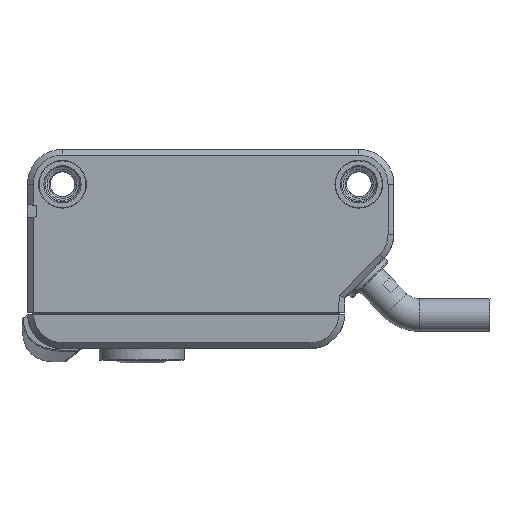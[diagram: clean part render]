
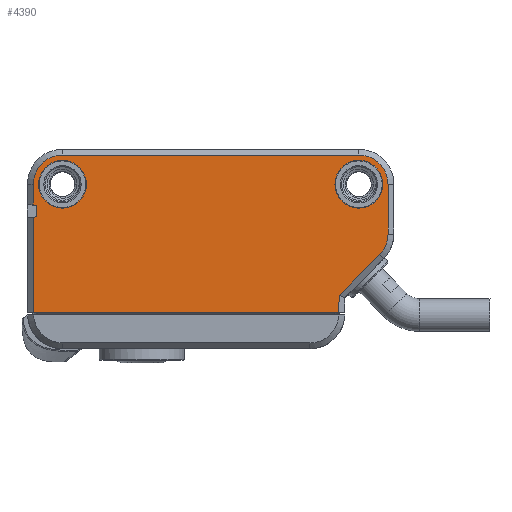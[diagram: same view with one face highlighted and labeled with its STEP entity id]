
A CAD part, left-side view. The second image highlights one B-rep face of the part: STEP entity #4390.
In plain terms, the highlighted planar face has unit normal (-1, 0, 0) as drawn and (0, 0, -1) by its records, which use the part's own axes.
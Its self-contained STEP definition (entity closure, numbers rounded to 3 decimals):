
#564=CARTESIAN_POINT('',(-12.7,-4.2,-6.));
#565=DIRECTION('',(0.,0.,1.));
#566=DIRECTION('',(0.,1.,0.));
#567=AXIS2_PLACEMENT_3D('',#564,#565,#566);
#572=DIRECTION('',(0.,-1.,0.));
#573=VECTOR('',#572,4.272);
#574=CARTESIAN_POINT('',(-15.2,-4.2,
-6.));
#575=LINE('',#574,#573);
#579=CARTESIAN_POINT('',(-12.7,-8.472,-6.));
#580=DIRECTION('',(0.,0.,1.));
#581=DIRECTION('',(-1.,0.,0.));
#582=AXIS2_PLACEMENT_3D('',#579,#580,#581);
#587=DIRECTION('',(0.707,-0.707,0.));
#588=VECTOR('',#587,4.897);
#589=CARTESIAN_POINT('',(-14.467,-10.24,
-6.));
#590=LINE('',#589,#588);
#594=DIRECTION('',(0.014,-1.,0.));
#595=VECTOR('',#594,1.497);
#596=CARTESIAN_POINT('',(-11.004,-13.703,
-6.));
#597=LINE('',#596,#595);
#601=DIRECTION('',(1.,0.,0.));
#602=VECTOR('',#601,26.166);
#603=CARTESIAN_POINT('',(-10.984,-15.2,-6.));
#604=LINE('',#603,#602);
#608=DIRECTION('',(-0.999,0.052,0.));
#609=VECTOR('',#608,0.283);
#610=CARTESIAN_POINT('',(15.183,-7.015,-6.));
#611=LINE('',#610,#609);
#615=DIRECTION('',(0.,1.,0.));
#616=VECTOR('',#615,1.);
#617=CARTESIAN_POINT('',(14.9,-7.,-6.));
#618=LINE('',#617,#616);
#622=DIRECTION('',(0.999,0.052,0.));
#623=VECTOR('',#622,0.3);
#624=CARTESIAN_POINT('',(14.9,-6.,-6.));
#625=LINE('',#624,#623);
#629=DIRECTION('',(0.,1.,0.));
#630=VECTOR('',#629,1.784);
#631=CARTESIAN_POINT('',(15.2,-5.984,-6.));
#632=LINE('',#631,#630);
#636=CARTESIAN_POINT('',(12.7,-4.2,-6.));
#637=DIRECTION('',(0.,0.,1.));
#638=DIRECTION('',(1.,0.,0.));
#639=AXIS2_PLACEMENT_3D('',#636,#637,#638);
#644=DIRECTION('',(-1.,0.,0.));
#645=VECTOR('',#644,25.4);
#646=CARTESIAN_POINT('',(12.7,-1.7,-6.));
#647=LINE('',#646,#645);
#651=CARTESIAN_POINT('',(12.7,-4.2,-6.));
#652=DIRECTION('',(0.,0.,-1.));
#653=DIRECTION('',(0.,1.,0.));
#654=AXIS2_PLACEMENT_3D('',#651,#652,#653);
#659=CARTESIAN_POINT('',(12.7,-4.2,-6.));
#660=DIRECTION('',(0.,0.,-1.));
#661=DIRECTION('',(1.,0.,0.));
#662=AXIS2_PLACEMENT_3D('',#659,#660,#661);
#667=CARTESIAN_POINT('',(12.7,-4.2,-6.));
#668=DIRECTION('',(0.,0.,-1.));
#669=DIRECTION('',(0.,-1.,0.));
#670=AXIS2_PLACEMENT_3D('',#667,#668,#669);
#675=CARTESIAN_POINT('',(-12.7,-4.2,-6.));
#676=DIRECTION('',(0.,0.,-1.));
#677=DIRECTION('',(0.,-1.,0.));
#678=AXIS2_PLACEMENT_3D('',#675,#676,#677);
#683=CARTESIAN_POINT('',(-12.7,-4.2,-6.));
#684=DIRECTION('',(0.,0.,-1.));
#685=DIRECTION('',(0.,1.,0.));
#686=AXIS2_PLACEMENT_3D('',#683,#684,#685);
#691=CARTESIAN_POINT('',(-12.7,-4.2,-6.));
#692=DIRECTION('',(0.,0.,-1.));
#693=DIRECTION('',(1.,0.,0.));
#694=AXIS2_PLACEMENT_3D('',#691,#692,#693);
#806=DIRECTION('',(0.,-1.,0.));
#807=VECTOR('',#806,8.185);
#808=CARTESIAN_POINT('',(15.183,-7.015,-6.));
#809=LINE('',#808,#807);
#3558=CARTESIAN_POINT('',(-10.7,-4.2,-6.));
#3559=CARTESIAN_POINT('',(-12.7,-6.2,-6.));
#3560=VERTEX_POINT('',#3558);
#3561=VERTEX_POINT('',#3559);
#3562=CARTESIAN_POINT('',(-12.7,-2.2,-6.));
#3563=VERTEX_POINT('',#3562);
#3564=CARTESIAN_POINT('',(-12.7,-1.7,-6.));
#3565=CARTESIAN_POINT('',(-15.2,-4.2,-6.));
#3566=VERTEX_POINT('',#3564);
#3567=VERTEX_POINT('',#3565);
#3568=CARTESIAN_POINT('',(-15.2,-8.472,
-6.));
#3569=VERTEX_POINT('',#3568);
#3570=CARTESIAN_POINT('',(-14.467,-10.241,-6.));
#3571=VERTEX_POINT('',#3570);
#3572=CARTESIAN_POINT('',(-11.004,-13.703,
-6.));
#3573=VERTEX_POINT('',#3572);
#3574=CARTESIAN_POINT('',(-10.984,-15.2,-6.));
#3575=VERTEX_POINT('',#3574);
#3576=CARTESIAN_POINT('',(15.183,-15.2,-6.));
#3577=VERTEX_POINT('',#3576);
#3578=CARTESIAN_POINT('',(15.183,-7.015,
-6.));
#3579=VERTEX_POINT('',#3578);
#3580=CARTESIAN_POINT('',(14.9,-7.,-6.));
#3581=VERTEX_POINT('',#3580);
#3582=CARTESIAN_POINT('',(14.9,-6.,-6.));
#3583=VERTEX_POINT('',#3582);
#3584=CARTESIAN_POINT('',(15.2,-5.984,-6.));
#3585=VERTEX_POINT('',#3584);
#3586=CARTESIAN_POINT('',(15.2,-4.2,
-6.));
#3587=VERTEX_POINT('',#3586);
#3588=CARTESIAN_POINT('',(12.7,-1.7,-6.));
#3589=VERTEX_POINT('',#3588);
#3590=CARTESIAN_POINT('',(14.7,-4.2,-6.));
#3591=CARTESIAN_POINT('',(12.7,-6.2,-6.));
#3592=VERTEX_POINT('',#3590);
#3593=VERTEX_POINT('',#3591);
#3594=CARTESIAN_POINT('',(12.7,-2.2,-6.));
#3595=VERTEX_POINT('',#3594);
#4343=CARTESIAN_POINT('',(15.7,0.,-6.));
#4344=DIRECTION('',(0.,0.,-1.));
#4345=DIRECTION('',(-1.,0.,0.));
#4346=AXIS2_PLACEMENT_3D('',#4343,#4344,#4345);
#4347=PLANE('',#4346);
#4349=ORIENTED_EDGE('',*,*,#4348,.T.);
#4351=ORIENTED_EDGE('',*,*,#4350,.T.);
#4352=ORIENTED_EDGE('',*,*,#4334,.T.);
#4353=ORIENTED_EDGE('',*,*,#4323,.T.);
#4355=ORIENTED_EDGE('',*,*,#4354,.T.);
#4357=ORIENTED_EDGE('',*,*,#4356,.T.);
#4359=ORIENTED_EDGE('',*,*,#4358,.F.);
#4361=ORIENTED_EDGE('',*,*,#4360,.T.);
#4363=ORIENTED_EDGE('',*,*,#4362,.T.);
#4365=ORIENTED_EDGE('',*,*,#4364,.T.);
#4367=ORIENTED_EDGE('',*,*,#4366,.T.);
#4369=ORIENTED_EDGE('',*,*,#4368,.T.);
#4371=ORIENTED_EDGE('',*,*,#4370,.T.);
#4372=EDGE_LOOP('',(#4349,#4351,#4352,#4353,#4355,#4357,#4359,#4361,#4363,#4365,
#4367,#4369,#4371));
#4373=FACE_OUTER_BOUND('',#4372,.F.);
#4375=ORIENTED_EDGE('',*,*,#4374,.T.);
#4377=ORIENTED_EDGE('',*,*,#4376,.T.);
#4379=ORIENTED_EDGE('',*,*,#4378,.T.);
#4380=EDGE_LOOP('',(#4375,#4377,#4379));
#4381=FACE_BOUND('',#4380,.F.);
#4383=ORIENTED_EDGE('',*,*,#4382,.T.);
#4385=ORIENTED_EDGE('',*,*,#4384,.T.);
#4387=ORIENTED_EDGE('',*,*,#4386,.T.);
#4388=EDGE_LOOP('',(#4383,#4385,#4387));
#4389=FACE_BOUND('',#4388,.F.);
#4390=ADVANCED_FACE('',(#4373,#4381,#4389),#4347,.T.);
#568=CIRCLE('',#567,2.5);
#583=CIRCLE('',#582,2.5);
#640=CIRCLE('',#639,2.5);
#655=CIRCLE('',#654,2.);
#663=CIRCLE('',#662,2.);
#671=CIRCLE('',#670,2.);
#679=CIRCLE('',#678,2.);
#687=CIRCLE('',#686,2.);
#695=CIRCLE('',#694,2.);
#4323=EDGE_CURVE('',#3571,#3573,#590,.T.);
#4334=EDGE_CURVE('',#3569,#3571,#583,.T.);
#4348=EDGE_CURVE('',#3566,#3567,#568,.T.);
#4350=EDGE_CURVE('',#3567,#3569,#575,.T.);
#4354=EDGE_CURVE('',#3573,#3575,#597,.T.);
#4356=EDGE_CURVE('',#3575,#3577,#604,.T.);
#4358=EDGE_CURVE('',#3579,#3577,#809,.T.);
#4360=EDGE_CURVE('',#3579,#3581,#611,.T.);
#4362=EDGE_CURVE('',#3581,#3583,#618,.T.);
#4364=EDGE_CURVE('',#3583,#3585,#625,.T.);
#4366=EDGE_CURVE('',#3585,#3587,#632,.T.);
#4368=EDGE_CURVE('',#3587,#3589,#640,.T.);
#4370=EDGE_CURVE('',#3589,#3566,#647,.T.);
#4374=EDGE_CURVE('',#3595,#3592,#655,.T.);
#4376=EDGE_CURVE('',#3592,#3593,#663,.T.);
#4378=EDGE_CURVE('',#3593,#3595,#671,.T.);
#4382=EDGE_CURVE('',#3561,#3563,#679,.T.);
#4384=EDGE_CURVE('',#3563,#3560,#687,.T.);
#4386=EDGE_CURVE('',#3560,#3561,#695,.T.);
